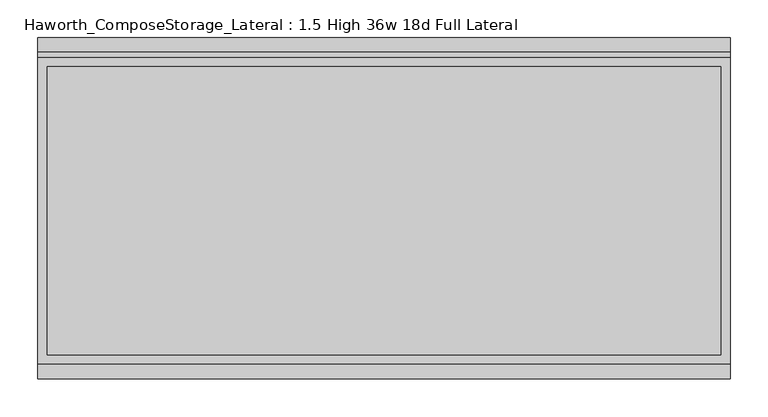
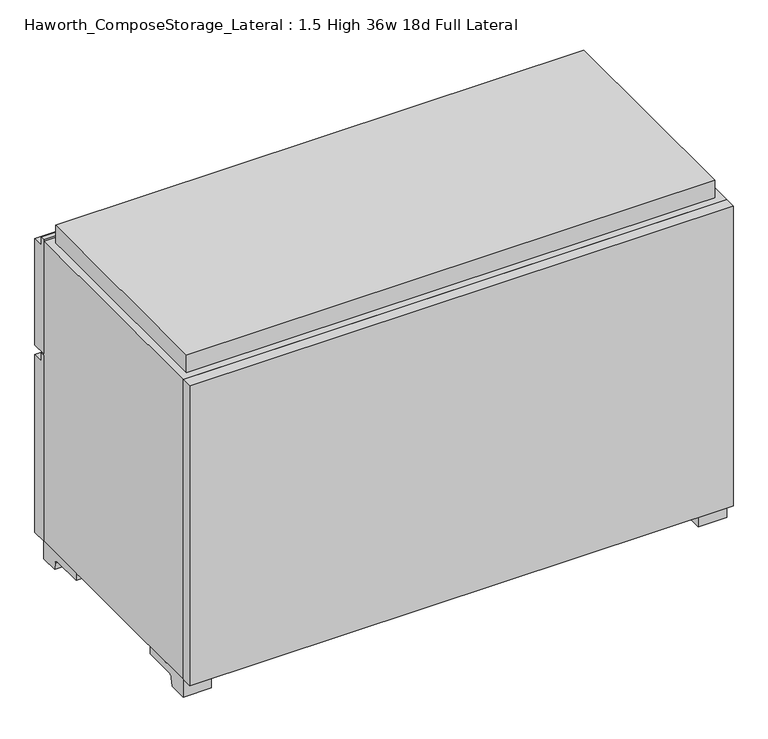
"""IFC4 building model written with IfcOpenShell, lengths in millimetres: furniture geometry, Haworth_ComposeStorage_Lateral : 1.5 High 36w 18d Full Lateral."""

import ifcopenshell
import ifcopenshell.guid

model = None  # the IFC model being written
_history = None  # IfcOwnerHistory: only IFC2X3 demands one
_inside = {}  # id of a spatial element -> (the spatial element, [elements in it])
_under = {}  # id of a project, library or spatial element -> (it, [spatial elements below it])
_declared = {}  # id of a project -> (the project, [libraries it declares])
_typed = {}  # id of a type object -> (the type object, [elements of that type])
_made_of = {}  # id of a material, layer set ... -> (it, [elements and type objects made of it])


def new_model(schema):
    """Start an empty IFC model of exactly this schema.

    Asked for "IFC4X3", IfcOpenShell would pick the latest addendum, in which some entities
    have other attributes; the version numbers below select the first issue.
    IFC2X3 requires an IfcOwnerHistory on every rooted entity: one is made here for all.
    """
    global model, _history
    if schema == "IFC4X3":
        model = ifcopenshell.file(schema_version=(4, 3, 0, 0))
    else:
        model = ifcopenshell.file(schema=schema)
    _inside.clear()
    _under.clear()
    _declared.clear()
    _typed.clear()
    _made_of.clear()
    _history = None
    if model.schema == "IFC2X3":
        org = make("IfcOrganization", Name="unknown")
        user = make(
            "IfcPersonAndOrganization",
            ThePerson=make("IfcPerson", FamilyName="unknown"),
            TheOrganization=org,
        )
        app = make(
            "IfcApplication",
            ApplicationDeveloper=org,
            Version="unknown",
            ApplicationFullName="unknown",
            ApplicationIdentifier="unknown",
        )
        _history = make(
            "IfcOwnerHistory",
            OwningUser=user,
            OwningApplication=app,
            ChangeAction="ADDED",
            CreationDate=0,
        )
    return model


def make(cls, **values):
    """One entity of the class cls with the attributes given. An attribute that is None is left unset."""
    return model.create_entity(
        cls, **{name: value for name, value in values.items() if value is not None}
    )


def rooted(cls, **values):
    """An entity with a GlobalId (a new one), such as an element, a storey or a relation."""
    return make(cls, GlobalId=ifcopenshell.guid.new(), OwnerHistory=_history, **values)


def si_unit(unit_type, name, prefix=None):
    """IfcSIUnit, for example si_unit("LENGTHUNIT", "METRE", prefix="MILLI")."""
    return make("IfcSIUnit", UnitType=unit_type, Prefix=prefix, Name=name)


def assignment(units):
    """IfcUnitAssignment: the units of a project."""
    return None if units is None else make("IfcUnitAssignment", Units=units)


def point(xyz):
    """IfcCartesianPoint."""
    return None if xyz is None else make("IfcCartesianPoint", Coordinates=xyz)


def direction(xyz):
    """IfcDirection."""
    return None if xyz is None else make("IfcDirection", DirectionRatios=xyz)


def frame(location, z_axis=None, x_axis=None):
    """IfcAxis2Placement3D, a coordinate frame: its origin and axes. An axis left out is left unset."""
    return make(
        "IfcAxis2Placement3D",
        Location=point(location),
        Axis=direction(z_axis),
        RefDirection=direction(x_axis),
    )


def frame_2d(location, x_axis=None):
    """IfcAxis2Placement2D, a coordinate frame in the plane: its origin and x axis."""
    return make(
        "IfcAxis2Placement2D", Location=point(location), RefDirection=direction(x_axis)
    )


def origin():
    """The frame at (0, 0, 0) with its axes left unset."""
    return frame((0.0, 0.0, 0.0))


def place(relative_to, where):
    """IfcLocalPlacement: puts the frame where relative to a parent placement (None: the world)."""
    return make(
        "IfcLocalPlacement", PlacementRelTo=relative_to, RelativePlacement=where
    )


def context(
    kind, dimensions, precision=None, world=None, true_north=None, identifier=None
):
    """IfcGeometricRepresentationContext, for example the 3D "Model" context."""
    return make(
        "IfcGeometricRepresentationContext",
        ContextIdentifier=identifier,
        ContextType=kind,
        CoordinateSpaceDimension=dimensions,
        Precision=precision,
        WorldCoordinateSystem=world,
        TrueNorth=true_north,
    )


def project(units=None, contexts=None):
    """IfcProject with its units and contexts."""
    return rooted(
        "IfcProject",
        Name="project",
        RepresentationContexts=contexts,
        UnitsInContext=assignment(units),
    )


def spatial(cls, under=None, at=None, **own):
    """A site, building, storey or space (cls), placed at a placement, below another one or the project."""
    s = rooted(cls, ObjectPlacement=at, **own)
    if under is not None:
        _under.setdefault(under.id(), (under, []))[1].append(s)
    return s


def polyline(points):
    """IfcPolyline through the points."""
    return make("IfcPolyline", Points=[point(p) for p in points])


def circle_curve(where, radius):
    """IfcCircle in the frame where."""
    return make("IfcCircle", Position=where, Radius=radius)


def trimmed(basis, trim1, trim2, sense, master):
    """IfcTrimmedCurve: the piece of a basis curve between two trims."""
    return make(
        "IfcTrimmedCurve",
        BasisCurve=basis,
        Trim1=trim1,
        Trim2=trim2,
        SenseAgreement=sense,
        MasterRepresentation=master,
    )


def segment(curve, same_sense, transition):
    """IfcCompositeCurveSegment."""
    return make(
        "IfcCompositeCurveSegment",
        Transition=transition,
        SameSense=same_sense,
        ParentCurve=curve,
    )


def composite_curve(segments, self_intersect=None):
    """IfcCompositeCurve: segments joined end to end."""
    return make("IfcCompositeCurve", Segments=segments, SelfIntersect=self_intersect)


def outline(outer, holes=None, kind="AREA"):
    """IfcArbitraryClosedProfileDef: a profile drawn as a closed curve; with holes, ...WithVoids."""
    if holes is None:
        return make("IfcArbitraryClosedProfileDef", ProfileType=kind, OuterCurve=outer)
    return make(
        "IfcArbitraryProfileDefWithVoids",
        ProfileType=kind,
        OuterCurve=outer,
        InnerCurves=holes,
    )


def extrude(swept, where, along, depth):
    """IfcExtrudedAreaSolid: the profile swept, set in the frame where, extruded along a direction by depth."""
    return make(
        "IfcExtrudedAreaSolid",
        SweptArea=swept,
        Position=where,
        ExtrudedDirection=direction(along),
        Depth=depth,
    )


def shape(context_of_items, identifier, shape_type, items):
    """IfcShapeRepresentation: the items that make up one representation, for example the "Body"."""
    return make(
        "IfcShapeRepresentation",
        ContextOfItems=context_of_items,
        RepresentationIdentifier=identifier,
        RepresentationType=shape_type,
        Items=items,
    )


def source(mapping_origin, context_of_items, identifier, shape_type, items):
    """IfcRepresentationMap: a shape defined once, which mapped items show again and again."""
    return make(
        "IfcRepresentationMap",
        MappingOrigin=mapping_origin,
        MappedRepresentation=shape(context_of_items, identifier, shape_type, items),
    )


def transform(
    local_origin,
    x_axis=None,
    y_axis=None,
    z_axis=None,
    scale=None,
    scale2=None,
    scale3=None,
    uniform=True,
):
    """IfcCartesianTransformationOperator3D, or its non-uniform kind. x_axis, y_axis, z_axis: its Axis1, 2, 3."""
    if uniform:
        return make(
            "IfcCartesianTransformationOperator3D",
            Axis1=direction(x_axis),
            Axis2=direction(y_axis),
            LocalOrigin=point(local_origin),
            Scale=scale,
            Axis3=direction(z_axis),
        )
    return make(
        "IfcCartesianTransformationOperator3DnonUniform",
        Axis1=direction(x_axis),
        Axis2=direction(y_axis),
        LocalOrigin=point(local_origin),
        Scale=scale,
        Axis3=direction(z_axis),
        Scale2=scale2,
        Scale3=scale3,
    )


def mapped(mapping_source, mapping_target):
    """IfcMappedItem: shows the shape of a source again, moved by a transform."""
    return make(
        "IfcMappedItem", MappingSource=mapping_source, MappingTarget=mapping_target
    )


def made_of(thing, what):
    """Note that an element or type object is made of a material, layer set ...; save() writes the relation."""
    if what is not None:
        _made_of.setdefault(what.id(), (what, []))[1].append(thing)
    return thing


def element(
    cls,
    number,
    at=None,
    inside=None,
    cuts=None,
    type_object=None,
    material=None,
    context=None,
    identifier="Body",
    shape_type=None,
    held_by="IfcProductDefinitionShape",
    body=None,
    shapes=None,
    **own,
):
    """One element of the class cls, such as IfcWall. Its Tag is "e" and its number.

    at: its placement. inside: the storey or other place that contains it. cuts: it is an
    opening in that element (IfcRelVoidsElement). A single representation is given by context,
    identifier, shape_type and body (its items); several are given by shapes. held_by: the class
    of the entity that holds the representations. save() writes the other relations.
    """
    e = rooted(cls, Tag="e%d" % number, ObjectPlacement=at, **own)
    if body is not None:
        shapes = [shape(context, identifier, shape_type, body)]
    if shapes is not None:
        e.Representation = make(held_by, Representations=shapes)
    if inside is not None:
        _inside.setdefault(inside.id(), (inside, []))[1].append(e)
    if cuts is not None:
        rooted(
            "IfcRelVoidsElement", RelatingBuildingElement=cuts, RelatedOpeningElement=e
        )
    if type_object is not None:
        _typed.setdefault(type_object.id(), (type_object, []))[1].append(e)
    return made_of(e, material)


def aggregate(whole, parts):
    """IfcRelAggregates: a whole, such as a stair, and the parts it consists of."""
    return rooted("IfcRelAggregates", RelatingObject=whole, RelatedObjects=parts)


def save(model, path):
    """Write the relations noted so far, then the file.

    IfcRelAggregates (storeys below a building ...), IfcRelContainedInSpatialStructure (elements
    in a storey), IfcRelDefinesByType, IfcRelAssociatesMaterial and IfcRelDeclares: one each for
    every whole, place, type object, material and project.
    """
    for whole, parts in _under.values():
        aggregate(whole, parts)
    for where, things in _inside.values():
        rooted(
            "IfcRelContainedInSpatialStructure",
            RelatedElements=things,
            RelatingStructure=where,
        )
    for kind, things in _typed.values():
        rooted("IfcRelDefinesByType", RelatedObjects=things, RelatingType=kind)
    for what, things in _made_of.values():
        rooted("IfcRelAssociatesMaterial", RelatedObjects=things, RelatingMaterial=what)
    for by, libraries in _declared.values():
        rooted("IfcRelDeclares", RelatingContext=by, RelatedDefinitions=libraries)
    model.write(path)


def haworth_composestorage_lateral_1_5_high_36w_18d_full_lateral_f29ae2b0(model_context):
    return source(origin(), model_context, "Body", "SweptSolid", [
        extrude(outline(polyline([(152.4, 365.125), (152.4, 568.325), (158.75, 568.325), (158.75, 554.0375), (177.8, 554.0375), (177.8, 365.125), (152.4, 365.125)])), frame((-457.1861094, 0.0, 0.0), z_axis=(1.0, 0.0, 0.0), x_axis=(0.0, 1.0, 0.0)), (0.0, 0.0, 1.0), 914.4),
        extrude(outline(polyline([(152.4, 31.75), (152.4, 361.95), (158.75, 361.95), (158.75, 347.6625), (177.8, 347.6625), (177.8, 31.75), (152.4, 31.75)])), frame((-457.1861094, 0.0, 0.0), z_axis=(1.0, 0.0, 0.0), x_axis=(0.0, 1.0, 0.0)), (0.0, 0.0, 1.0), 914.4),
        extrude(outline(composite_curve([segment(polyline([(120.65, 0.0), (118.5333333, 12.7)]), True, "CONTINUOUS"), segment(trimmed(circle_curve(frame_2d((112.1833333, 12.7)), 6.35), [point((118.5333333, 12.7))], [point((112.1833333, 19.05))], True, "CARTESIAN"), True, "CONTINUOUS"), segment(polyline([(112.1833333, 19.05), (57.15, 19.05), (57.15, 31.75), (152.4, 31.75), (152.4, 0.0), (120.65, 0.0)]), True, "CONTINUOUS")], self_intersect=False)), frame((409.5888906, 0.0, 0.0), z_axis=(1.0, 0.0, 0.0), x_axis=(0.0, 1.0, 0.0)), (0.0, 0.0, 1.0), 47.625),
        extrude(outline(composite_curve([segment(polyline([(-222.25, 0.0), (-254.0, 0.0), (-254.0, 31.75), (-158.75, 31.75), (-158.75, 19.05), (-213.7833333, 19.05)]), True, "CONTINUOUS"), segment(trimmed(circle_curve(frame_2d((-213.7833333, 12.7)), 6.35), [point((-213.7833333, 19.05))], [point((-220.1333333, 12.7))], True, "CARTESIAN"), True, "CONTINUOUS"), segment(polyline([(-220.1333333, 12.7), (-222.25, 0.0)]), True, "CONTINUOUS")], self_intersect=False)), frame((409.5888906, 0.0, 0.0), z_axis=(1.0, 0.0, 0.0), x_axis=(0.0, 1.0, 0.0)), (0.0, 0.0, 1.0), 47.625),
        extrude(outline(composite_curve([segment(polyline([(120.65, 0.0), (118.5333333, 12.7)]), True, "CONTINUOUS"), segment(trimmed(circle_curve(frame_2d((112.1833333, 12.7)), 6.35), [point((118.5333333, 12.7))], [point((112.1833333, 19.05))], True, "CARTESIAN"), True, "CONTINUOUS"), segment(polyline([(112.1833333, 19.05), (57.15, 19.05), (57.15, 31.75), (152.4, 31.75), (152.4, 0.0), (120.65, 0.0)]), True, "CONTINUOUS")], self_intersect=False)), frame((-457.1861094, 0.0, 0.0), z_axis=(1.0, 0.0, 0.0), x_axis=(0.0, 1.0, 0.0)), (0.0, 0.0, 1.0), 47.625),
        extrude(outline(composite_curve([segment(polyline([(-222.25, 0.0), (-254.0, 0.0), (-254.0, 31.75), (-158.75, 31.75), (-158.75, 19.05), (-213.7833333, 19.05)]), True, "CONTINUOUS"), segment(trimmed(circle_curve(frame_2d((-213.7833333, 12.7)), 6.35), [point((-213.7833333, 19.05))], [point((-220.1333333, 12.7))], True, "CARTESIAN"), True, "CONTINUOUS"), segment(polyline([(-220.1333333, 12.7), (-222.25, 0.0)]), True, "CONTINUOUS")], self_intersect=False)), frame((-457.1861094, 0.0, 0.0), z_axis=(1.0, 0.0, 0.0), x_axis=(0.0, 1.0, 0.0)), (0.0, 0.0, 1.0), 47.625),
        extrude(outline(polyline([(457.2138906, -254.0), (457.2138906, -273.05), (-457.1861094, -273.05), (-457.1861094, -254.0), (457.2138906, -254.0)])), frame((0.0, 0.0, 31.75), z_axis=(0.0, 0.0, 1.0), x_axis=(1.0, 0.0, 0.0)), (0.0, 0.0, 1.0), 533.4),
        extrude(outline(polyline([(31.75, -457.1861094), (31.75, 457.2), (565.15, 457.2), (565.15, -457.1861094), (31.75, -457.1861094)]), holes=[polyline([(50.8, -438.1361094), (514.35, -438.1361094), (514.35, 438.1361094), (50.8, 438.1361094), (50.8, -438.1361094)])]), frame((0.0, -254.0, 0.0), z_axis=(0.0, 1.0, 0.0), x_axis=(0.0, 0.0, 1.0)), (0.0, 0.0, 1.0), 406.4),
        extrude(outline(polyline([(-438.1291641, -219.075), (438.1569453, -219.075), (438.1569453, -228.6), (-438.1291641, -228.6), (-438.1291641, -219.075)])), frame((0.0, 0.0, 50.8), z_axis=(0.0, 0.0, 1.0), x_axis=(1.0, 0.0, 0.0)), (0.0, 0.0, 1.0), 463.55),
        extrude(outline(polyline([(444.5138906, -241.3), (-444.4861094, -241.3), (-444.4861094, 139.7), (444.5138906, 139.7), (444.5138906, -241.3)])), frame((0.0, 0.0, 565.15), z_axis=(0.0, 0.0, 1.0), x_axis=(1.0, 0.0, 0.0)), (0.0, 0.0, 1.0), 31.75),
    ])


if __name__ == "__main__":
    model = new_model("IFC4")
    model_context = context("Model", 3, world=origin())
    ifc_project = project(units=[si_unit("LENGTHUNIT", "METRE", prefix="MILLI")], contexts=[model_context])
    site = spatial("IfcSite", under=ifc_project)
    building = spatial("IfcBuilding", under=site)
    placement = place(None, origin())
    haworth_composestorage_lateral_1_5_high_36w_18d_full_lateral_shape = haworth_composestorage_lateral_1_5_high_36w_18d_full_lateral_f29ae2b0(model_context)
    element("IfcFurniture", 1, ObjectType="Haworth_ComposeStorage_Lateral : 1.5 High 36w 18d Full Lateral", at=placement, inside=building, context=model_context, shape_type="MappedRepresentation", body=[
        mapped(haworth_composestorage_lateral_1_5_high_36w_18d_full_lateral_shape, transform((0.0, 0.0, 0.0), x_axis=(1.0, 0.0, 0.0), y_axis=(0.0, 1.0, 0.0), z_axis=(0.0, 0.0, 1.0))),
    ])
    save(model, "model.ifc")
